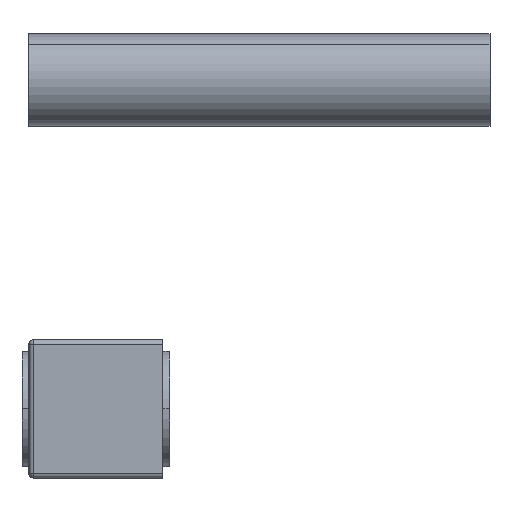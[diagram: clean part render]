
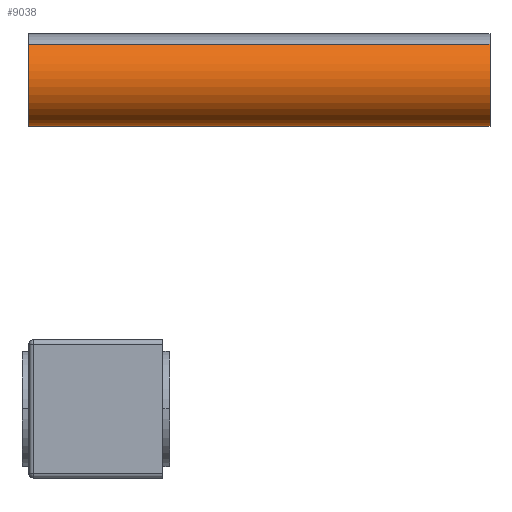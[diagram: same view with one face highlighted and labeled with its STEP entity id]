
A CAD part, left-side view. The second image highlights one B-rep face of the part: STEP entity #9038.
In plain terms, the highlighted cylindrical face has radius 10 mm (diameter 20 mm), a partial arc.
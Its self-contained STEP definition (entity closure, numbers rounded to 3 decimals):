
#312 = EDGE_CURVE ( 'NONE', #622, #7257, #1264, .T. ) ;
#506 = ORIENTED_EDGE ( 'NONE', *, *, #2318, .F. ) ;
#622 = VERTEX_POINT ( 'NONE', #8966 ) ;
#637 = DIRECTION ( 'NONE',  ( -1., 0., 0. ) ) ;
#684 = ORIENTED_EDGE ( 'NONE', *, *, #312, .F. ) ;
#762 = EDGE_CURVE ( 'NONE', #622, #3966, #2750, .T. ) ;
#1102 = EDGE_LOOP ( 'NONE', ( #684, #5897, #6820, #506 ) ) ;
#1148 = DIRECTION ( 'NONE',  ( 0., 0., -1. ) ) ;
#1264 = CIRCLE ( 'NONE', #6445, 10. ) ;
#1464 = CARTESIAN_POINT ( 'NONE',  ( 100., 0., 10. ) ) ;
#1707 = CARTESIAN_POINT ( 'NONE',  ( 0., 0., -10. ) ) ;
#2318 = EDGE_CURVE ( 'NONE', #7257, #7800, #8487, .T. ) ;
#2750 = LINE ( 'NONE', #6800, #4721 ) ;
#2847 = CARTESIAN_POINT ( 'NONE',  ( 0., 0., 0. ) ) ;
#2945 = VECTOR ( 'NONE', #637, 1000. ) ;
#3966 = VERTEX_POINT ( 'NONE', #1707 ) ;
#4018 = CARTESIAN_POINT ( 'NONE',  ( 100., 0., 0. ) ) ;
#4424 = CIRCLE ( 'NONE', #5145, 10. ) ;
#4721 = VECTOR ( 'NONE', #5444, 1000. ) ;
#4827 = DIRECTION ( 'NONE',  ( 0., 0., 1. ) ) ;
#4853 = FACE_OUTER_BOUND ( 'NONE', #1102, .T. ) ;
#5145 = AXIS2_PLACEMENT_3D ( 'NONE', #2847, #9514, #8792 ) ;
#5240 = CARTESIAN_POINT ( 'NONE',  ( 100., 0., 10. ) ) ;
#5444 = DIRECTION ( 'NONE',  ( -1., 0., 0. ) ) ;
#5549 = DIRECTION ( 'NONE',  ( 1., 0., 0. ) ) ;
#5897 = ORIENTED_EDGE ( 'NONE', *, *, #762, .T. ) ;
#6445 = AXIS2_PLACEMENT_3D ( 'NONE', #7725, #5549, #1148 ) ;
#6800 = CARTESIAN_POINT ( 'NONE',  ( 100., 0., -10. ) ) ;
#6820 = ORIENTED_EDGE ( 'NONE', *, *, #7146, .T. ) ;
#7146 = EDGE_CURVE ( 'NONE', #3966, #7800, #4424, .T. ) ;
#7257 = VERTEX_POINT ( 'NONE', #5240 ) ;
#7725 = CARTESIAN_POINT ( 'NONE',  ( 100., 0., 0. ) ) ;
#7800 = VERTEX_POINT ( 'NONE', #9550 ) ;
#7979 = CYLINDRICAL_SURFACE ( 'NONE', #8415, 10. ) ;
#8415 = AXIS2_PLACEMENT_3D ( 'NONE', #4018, #9304, #4827 ) ;
#8487 = LINE ( 'NONE', #1464, #2945 ) ;
#8792 = DIRECTION ( 'NONE',  ( 0., 0., -1. ) ) ;
#8966 = CARTESIAN_POINT ( 'NONE',  ( 100., 0., -10. ) ) ;
#9038 = ADVANCED_FACE ( 'NONE', ( #4853 ), #7979, .T. ) ;
#9304 = DIRECTION ( 'NONE',  ( -1., 0., 0. ) ) ;
#9514 = DIRECTION ( 'NONE',  ( 1., 0., 0. ) ) ;
#9550 = CARTESIAN_POINT ( 'NONE',  ( 0., 0., 10. ) ) ;
